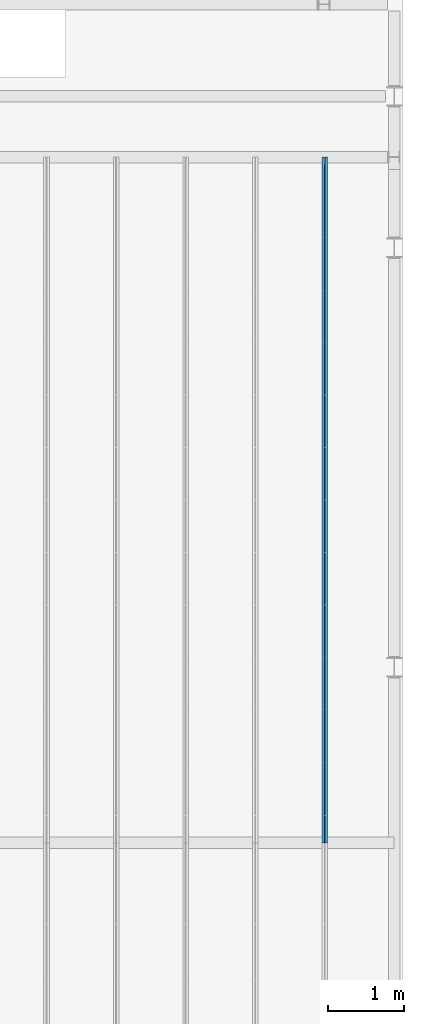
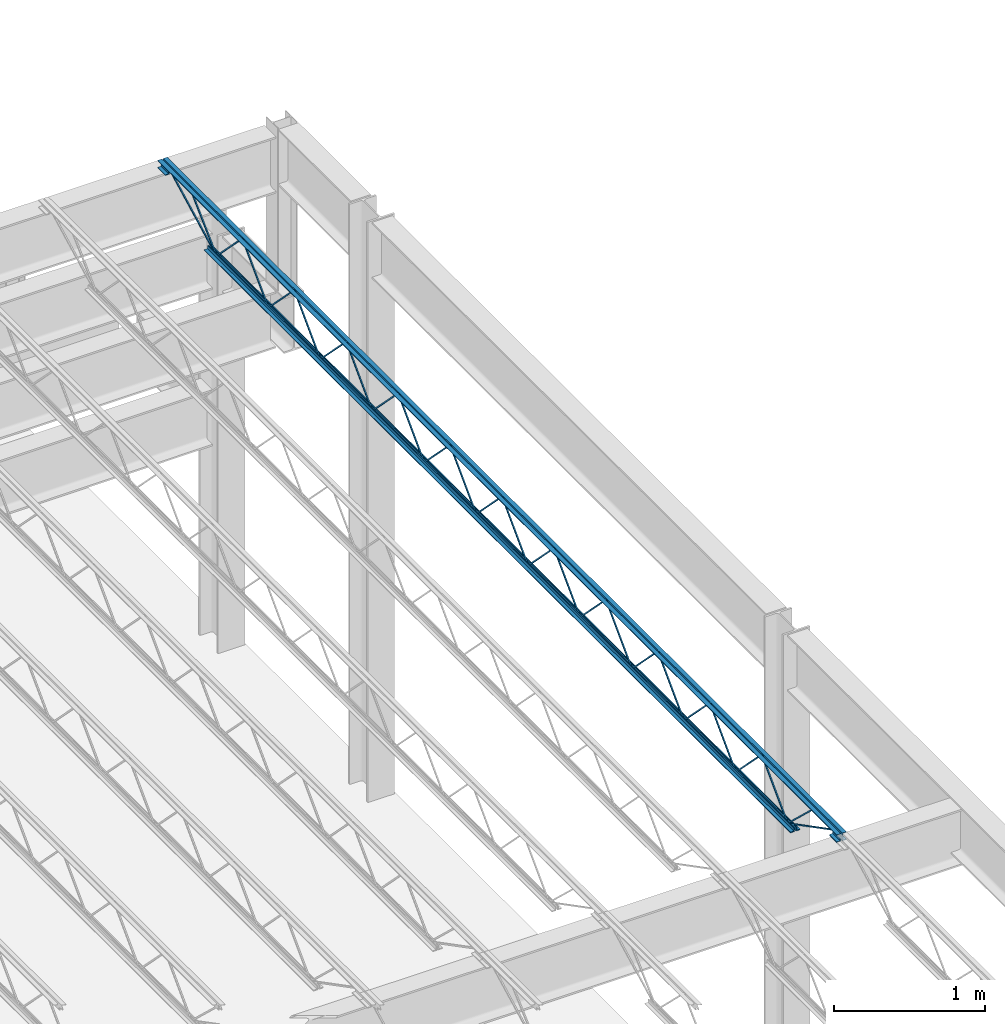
# One storey, part 72 of 119: 1 beam.
"""IFC2X3 building model written with IfcOpenShell, lengths in metres."""

from ifc_helpers import new_model, entity, si_unit, converted_unit, frame, origin, place, context, project, spatial, face_set, surface_model, element, save


model = new_model("IFC2X3")

# Units and contexts
model_context = context("Model", 3, precision=1e-09, world=origin())
plan_context = context("Plan", 3, precision=1e-09, world=origin())
ifc_project = project(units=[si_unit("LENGTHUNIT", "METRE"), si_unit("AREAUNIT", "SQUARE_METRE"), si_unit("VOLUMEUNIT", "CUBIC_METRE"), converted_unit("PLANEANGLEUNIT", "DEGREE", entity("IfcRatioMeasure", 0.01745329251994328), si_unit("PLANEANGLEUNIT", "RADIAN"), dimensions=[0, 0, 0, 0, 0, 0, 0]), si_unit("TIMEUNIT", "SECOND")], contexts=[model_context, plan_context])

# Site, building, storey
site_placement = place(None, origin())
site = spatial("IfcSite", under=ifc_project, at=site_placement, Name="Default", CompositionType="ELEMENT")
building_placement = place(site_placement, origin())
building = spatial("IfcBuilding", under=site, at=building_placement, CompositionType="ELEMENT")
storey_placement = place(building_placement, frame((0.0, 0.0, 4.570000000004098)))
storey = spatial("IfcBuildingStorey", under=building, at=storey_placement, Name="Second Floor", CompositionType="ELEMENT", Elevation=4.570000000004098)

# Beam
beam_placement = place(storey_placement, frame((-0.9467500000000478, 18.60999999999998, 4.323999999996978)))
element("IfcBeam", 1, at=beam_placement, inside=storey, Name="M_K-Series Bar Joist-Rod Web:14K1:14K1", ObjectType="M_K-Series Bar Joist-Rod Web:14K1", context=model_context, shape_type="SurfaceModel", body=[
    surface_model("IfcFaceBasedSurfaceModel", [(0.04150000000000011, 6.890090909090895, 0.01110000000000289), (0.03200000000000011, 6.890090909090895, 0.01110000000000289), (0.03200000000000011, 6.890090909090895, 0.001600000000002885), (0.04150000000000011, 6.890090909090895, 0.001600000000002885), (0.03200000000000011, 6.891272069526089, 0.01110000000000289), (0.04150000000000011, 6.891272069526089, 0.01110000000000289), (0.03200000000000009, 6.895259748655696, 0.001600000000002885), (0.03200000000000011, 7.232137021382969, 0.3449000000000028), (0.03200000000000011, 7.234499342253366, 0.3449000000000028), (0.03200000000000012, 7.571376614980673, 0.001600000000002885), (0.03200000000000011, 7.57654545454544, 0.001600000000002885), (0.03200000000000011, 7.57654545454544, 0.01110000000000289), (0.03200000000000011, 7.575364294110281, 0.01110000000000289), (0.0320000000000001, 7.238487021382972, 0.3544000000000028), (0.03200000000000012, 7.228149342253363, 0.3544000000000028), (0.0415000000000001, 6.895259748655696, 0.001600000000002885), (0.04149999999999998, 7.232137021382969, 0.3449000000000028), (0.04149999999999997, 7.234499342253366, 0.3449000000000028), (0.04149999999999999, 7.571376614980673, 0.001600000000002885), (0.04149999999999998, 7.57654545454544, 0.001600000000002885), (0.04150000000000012, 7.57654545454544, 0.01110000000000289), (0.04150000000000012, 7.575364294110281, 0.01110000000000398), (0.04150000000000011, 7.238487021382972, 0.3544000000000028), (0.04150000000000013, 7.228149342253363, 0.3544000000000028), (0.0415000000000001, 6.203636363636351, 0.01110000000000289), (0.0320000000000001, 6.203636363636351, 0.01110000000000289), (0.0320000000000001, 6.203636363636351, 0.001600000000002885), (0.0415000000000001, 6.203636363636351, 0.001600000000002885), (0.03200000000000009, 6.204817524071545, 0.01110000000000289), (0.0415000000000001, 6.204817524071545, 0.01110000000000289), (0.03200000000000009, 6.208805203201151, 0.001600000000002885), (0.03200000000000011, 6.545682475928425, 0.3449000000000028), (0.0320000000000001, 6.548044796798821, 0.3449000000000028), (0.03200000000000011, 6.884922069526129, 0.001600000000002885), (0.03200000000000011, 6.888909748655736, 0.01110000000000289), (0.03200000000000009, 6.552032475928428, 0.3544000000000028), (0.03200000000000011, 6.541694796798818, 0.3544000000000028), (0.04150000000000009, 6.208805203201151, 0.001600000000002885), (0.04149999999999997, 6.545682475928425, 0.3449000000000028), (0.04149999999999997, 6.548044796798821, 0.3449000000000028), (0.04149999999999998, 6.884922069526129, 0.001600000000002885), (0.04149999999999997, 6.890090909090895, 0.001600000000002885), (0.04150000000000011, 6.888909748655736, 0.01110000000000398), (0.0415000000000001, 6.552032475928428, 0.3544000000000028), (0.04150000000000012, 6.541694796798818, 0.3544000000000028), (0.0415000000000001, 5.517181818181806, 0.01110000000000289), (0.03200000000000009, 5.517181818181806, 0.01110000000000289), (0.03200000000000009, 5.517181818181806, 0.001600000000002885), (0.0415000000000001, 5.517181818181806, 0.001600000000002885), (0.03200000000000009, 5.518362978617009, 0.01110000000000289), (0.0415000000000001, 5.518362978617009, 0.01110000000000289), (0.03200000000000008, 5.522350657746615, 0.001600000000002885), (0.0320000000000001, 5.85922793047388, 0.3449000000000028), (0.03200000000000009, 5.861590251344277, 0.3449000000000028), (0.03200000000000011, 6.198467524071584, 0.001600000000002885), (0.0320000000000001, 6.202455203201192, 0.01110000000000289), (0.03200000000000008, 5.865577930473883, 0.3544000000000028), (0.03200000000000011, 5.855240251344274, 0.3544000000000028), (0.04150000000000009, 5.522350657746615, 0.001600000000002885), (0.04149999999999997, 5.859227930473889, 0.3449000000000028), (0.04149999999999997, 5.861590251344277, 0.3449000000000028), (0.04149999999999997, 6.198467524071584, 0.001600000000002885), (0.04149999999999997, 6.203636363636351, 0.001600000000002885), (0.04150000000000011, 6.202455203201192, 0.01110000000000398), (0.04150000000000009, 5.865577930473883, 0.3544000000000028), (0.04150000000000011, 5.855240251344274, 0.3544000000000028), (0.04150000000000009, 4.830727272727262, 0.01110000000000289), (0.03200000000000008, 4.830727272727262, 0.01110000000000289), (0.03200000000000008, 4.830727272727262, 0.001600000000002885), (0.04150000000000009, 4.830727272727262, 0.001600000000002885), (0.03200000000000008, 4.831908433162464, 0.01110000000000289), (0.04150000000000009, 4.831908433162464, 0.01110000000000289), (0.03200000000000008, 4.835896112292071, 0.001600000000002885), (0.03200000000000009, 5.172773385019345, 0.3449000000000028), (0.03200000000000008, 5.175135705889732, 0.3449000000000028), (0.0320000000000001, 5.51201297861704, 0.001600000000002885), (0.03200000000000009, 5.516000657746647, 0.01110000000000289), (0.03200000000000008, 5.179123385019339, 0.3544000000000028), (0.0320000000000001, 5.168785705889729, 0.3544000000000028), (0.04150000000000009, 4.835896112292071, 0.001600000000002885), (0.04149999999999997, 5.172773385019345, 0.3449000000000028), (0.04149999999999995, 5.175135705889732, 0.3449000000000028), (0.04149999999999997, 5.51201297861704, 0.001600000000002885), (0.04149999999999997, 5.517181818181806, 0.001600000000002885), (0.0415000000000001, 5.516000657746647, 0.01110000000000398), (0.04150000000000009, 5.179123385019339, 0.3544000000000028), (0.0415000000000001, 5.168785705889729, 0.3544000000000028), (0.04150000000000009, 4.144272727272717, 0.01110000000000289), (0.03200000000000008, 4.144272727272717, 0.01110000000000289), (0.03200000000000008, 4.144272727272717, 0.001600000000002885), (0.04150000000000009, 4.144272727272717, 0.001600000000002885), (0.03200000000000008, 4.145453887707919, 0.01110000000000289), (0.04150000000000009, 4.145453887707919, 0.01110000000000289), (0.03200000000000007, 4.149441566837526, 0.001600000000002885), (0.03200000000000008, 4.4863188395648, 0.3449000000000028), (0.03200000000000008, 4.488681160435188, 0.3449000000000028), (0.03200000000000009, 4.825558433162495, 0.001600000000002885), (0.03200000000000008, 4.83072727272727, 0.001600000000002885), (0.03200000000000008, 4.829546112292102, 0.01110000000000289), (0.03200000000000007, 4.492668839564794, 0.3544000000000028), (0.03200000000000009, 4.482331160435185, 0.3544000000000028), (0.04150000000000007, 4.149441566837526, 0.001600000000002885), (0.04149999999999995, 4.4863188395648, 0.3449000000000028), (0.04149999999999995, 4.488681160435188, 0.3449000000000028), (0.04149999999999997, 4.825558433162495, 0.001600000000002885), (0.04149999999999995, 4.830727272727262, 0.001600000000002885), (0.04150000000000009, 4.83072727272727, 0.01110000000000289), (0.04150000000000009, 4.829546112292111, 0.01110000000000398), (0.04150000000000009, 4.492668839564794, 0.3544000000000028), (0.0415000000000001, 4.482331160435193, 0.3544000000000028), (0.04150000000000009, 3.457818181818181, 0.01110000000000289), (0.03200000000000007, 3.457818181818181, 0.01110000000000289), (0.03200000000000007, 3.457818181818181, 0.001600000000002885), (0.04150000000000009, 3.457818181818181, 0.001600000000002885), (0.03200000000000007, 3.458999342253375, 0.01110000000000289), (0.04150000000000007, 3.458999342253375, 0.01110000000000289), (0.03200000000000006, 3.462987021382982, 0.001600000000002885), (0.03200000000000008, 3.799864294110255, 0.3449000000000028), (0.03200000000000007, 3.802226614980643, 0.3449000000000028), (0.03200000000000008, 4.13910388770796, 0.001600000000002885), (0.03200000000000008, 4.144272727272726, 0.001600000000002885), (0.03200000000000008, 4.144272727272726, 0.01110000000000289), (0.03200000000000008, 4.143091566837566, 0.01110000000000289), (0.03200000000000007, 3.806214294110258, 0.3544000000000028), (0.03200000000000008, 3.795876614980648, 0.3544000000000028), (0.04150000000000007, 3.462987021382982, 0.001600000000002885), (0.04149999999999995, 3.799864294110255, 0.3449000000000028), (0.04149999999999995, 3.802226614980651, 0.3449000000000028), (0.04149999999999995, 4.13910388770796, 0.001600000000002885), (0.04149999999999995, 4.144272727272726, 0.001600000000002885), (0.04150000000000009, 4.144272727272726, 0.01110000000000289), (0.04150000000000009, 4.143091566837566, 0.01110000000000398), (0.04150000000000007, 3.806214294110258, 0.3544000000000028), (0.04150000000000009, 3.795876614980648, 0.3544000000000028), (0.04150000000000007, 2.771363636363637, 0.01110000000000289), (0.03200000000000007, 2.771363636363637, 0.01110000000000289), (0.03200000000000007, 2.771363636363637, 0.001600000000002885), (0.04150000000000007, 2.771363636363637, 0.001600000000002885), (0.03200000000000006, 2.77254479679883, 0.01110000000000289), (0.04150000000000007, 2.77254479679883, 0.01110000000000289), (0.03200000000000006, 2.776532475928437, 0.001600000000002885), (0.03200000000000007, 3.113409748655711, 0.3449000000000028), (0.03200000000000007, 3.115772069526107, 0.3449000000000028), (0.03200000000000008, 3.452649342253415, 0.001600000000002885), (0.03200000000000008, 3.456637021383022, 0.01110000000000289), (0.03200000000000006, 3.119759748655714, 0.3544000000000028), (0.03200000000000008, 3.109422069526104, 0.3544000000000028), (0.04150000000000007, 2.776532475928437, 0.001600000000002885), (0.04149999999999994, 3.113409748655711, 0.3449000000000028), (0.04149999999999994, 3.115772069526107, 0.3449000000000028), (0.04149999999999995, 3.452649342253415, 0.001600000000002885), (0.04149999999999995, 3.457818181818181, 0.001600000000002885), (0.04150000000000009, 3.456637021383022, 0.01110000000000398), (0.04150000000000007, 3.119759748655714, 0.3544000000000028), (0.04150000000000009, 3.109422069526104, 0.3544000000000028), (0.04150000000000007, 2.084909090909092, 0.01110000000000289), (0.03200000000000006, 2.084909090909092, 0.01110000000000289), (0.03200000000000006, 2.084909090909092, 0.001600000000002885), (0.04150000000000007, 2.084909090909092, 0.001600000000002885), (0.03200000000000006, 2.086090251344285, 0.01110000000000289), (0.04150000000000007, 2.086090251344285, 0.01110000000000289), (0.03200000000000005, 2.090077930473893, 0.001600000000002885), (0.03200000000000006, 2.426955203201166, 0.3449000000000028), (0.03200000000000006, 2.429317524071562, 0.3449000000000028), (0.03200000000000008, 2.766194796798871, 0.001600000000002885), (0.03200000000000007, 2.770182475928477, 0.01110000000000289), (0.03200000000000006, 2.433305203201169, 0.3544000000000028), (0.03200000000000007, 2.422967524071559, 0.3544000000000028), (0.04150000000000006, 2.090077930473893, 0.001600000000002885), (0.04149999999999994, 2.426955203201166, 0.3449000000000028), (0.04149999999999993, 2.429317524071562, 0.3449000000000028), (0.04149999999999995, 2.766194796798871, 0.001600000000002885), (0.04149999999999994, 2.771363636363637, 0.001600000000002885), (0.04150000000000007, 2.770182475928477, 0.01110000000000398), (0.04150000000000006, 2.433305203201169, 0.3544000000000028), (0.04150000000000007, 2.422967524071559, 0.3544000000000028), (0.04150000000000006, 1.398454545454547, 0.01110000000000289), (0.03200000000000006, 1.398454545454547, 0.01110000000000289), (0.03200000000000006, 1.398454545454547, 0.001600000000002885), (0.04150000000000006, 1.398454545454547, 0.001600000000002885), (0.03200000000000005, 1.39963570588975, 0.01110000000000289), (0.04150000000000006, 1.39963570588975, 0.01110000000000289), (0.03200000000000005, 1.403623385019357, 0.001600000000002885), (0.03200000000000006, 1.740500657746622, 0.3449000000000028), (0.03200000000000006, 1.742862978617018, 0.3449000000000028), (0.03200000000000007, 2.079740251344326, 0.001600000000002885), (0.03200000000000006, 2.083727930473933, 0.01110000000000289), (0.03200000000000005, 1.746850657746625, 0.3544000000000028), (0.03200000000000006, 1.736512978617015, 0.3544000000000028), (0.04150000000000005, 1.403623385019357, 0.001600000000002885), (0.04149999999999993, 1.74050065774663, 0.3449000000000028), (0.04149999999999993, 1.742862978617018, 0.3449000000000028), (0.04149999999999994, 2.079740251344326, 0.001600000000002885), (0.04149999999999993, 2.084909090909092, 0.001600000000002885), (0.04150000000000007, 2.083727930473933, 0.01110000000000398), (0.04150000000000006, 1.746850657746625, 0.3544000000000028), (0.04150000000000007, 1.736512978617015, 0.3544000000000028), (0.04150000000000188, 7.57654545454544, 0.01109999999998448), (0.03200000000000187, 7.57654545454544, 0.01109999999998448), (0.03200000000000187, 7.57654545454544, 0.001599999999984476), (0.04150000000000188, 7.57654545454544, 0.001599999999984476), (0.03200000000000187, 7.577726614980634, 0.01109999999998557), (0.04150000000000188, 7.577726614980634, 0.01109999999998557), (0.03200000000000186, 7.58171429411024, 0.001599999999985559), (0.03200000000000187, 7.918591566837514, 0.3448999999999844), (0.03200000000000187, 7.92095388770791, 0.3448999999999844), (0.03200000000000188, 8.257831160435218, 0.001599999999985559), (0.03200000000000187, 8.262999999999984, 0.001599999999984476), (0.03200000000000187, 8.262999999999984, 0.01109999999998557), (0.03200000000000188, 8.261818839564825, 0.01109999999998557), (0.03200000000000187, 7.924941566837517, 0.3543999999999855), (0.03200000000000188, 7.914603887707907, 0.3543999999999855), (0.04150000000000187, 7.58171429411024, 0.001599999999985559), (0.04150000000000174, 7.918591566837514, 0.3448999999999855), (0.04150000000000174, 7.92095388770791, 0.3448999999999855), (0.04150000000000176, 8.257831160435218, 0.001599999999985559), (0.04150000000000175, 8.262999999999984, 0.001599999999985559), (0.04150000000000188, 8.262999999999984, 0.01109999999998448), (0.04150000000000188, 8.261818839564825, 0.01109999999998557), (0.04150000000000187, 7.924941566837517, 0.3543999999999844), (0.04150000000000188, 7.914603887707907, 0.3543999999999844), (0.04150000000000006, 0.712000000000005, 0.01110000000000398), (0.03200000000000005, 0.712000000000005, 0.01110000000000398), (0.03200000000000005, 0.712000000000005, 0.001600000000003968), (0.04150000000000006, 0.712000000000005, 0.001600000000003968), (0.03200000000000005, 0.7131811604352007, 0.01110000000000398), (0.04150000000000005, 0.7131811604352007, 0.01110000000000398), (0.03200000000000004, 0.7171688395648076, 0.001600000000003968), (0.03200000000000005, 1.054046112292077, 0.3449000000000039), (0.03200000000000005, 1.056408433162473, 0.3449000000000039), (0.03200000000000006, 1.393285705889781, 0.001600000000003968), (0.03200000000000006, 1.398454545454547, 0.001600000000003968), (0.03200000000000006, 1.398454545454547, 0.01110000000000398), (0.03200000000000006, 1.397273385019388, 0.01110000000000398), (0.03200000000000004, 1.06039611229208, 0.3544000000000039), (0.03200000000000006, 1.05005843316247, 0.3544000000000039), (0.04150000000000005, 0.7171688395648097, 0.001600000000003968), (0.04149999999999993, 1.054046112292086, 0.3449000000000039), (0.04149999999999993, 1.056408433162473, 0.3449000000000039), (0.04149999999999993, 1.393285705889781, 0.001600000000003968), (0.04149999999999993, 1.398454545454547, 0.001600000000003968), (0.04150000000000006, 1.398454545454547, 0.01110000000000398), (0.04150000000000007, 1.397273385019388, 0.01110000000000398), (0.04150000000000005, 1.06039611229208, 0.3544000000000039), (0.04150000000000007, 1.05005843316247, 0.3544000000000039), (0.03200000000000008, 8.974999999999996, 0.3559999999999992), (0.0, 8.974999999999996, 0.3559999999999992), (0.0, 8.974999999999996, 0.3494999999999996), (0.0254999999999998, 8.974999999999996, 0.3494999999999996), (0.0254999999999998, 8.974999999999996, 0.3239999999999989), (0.03200000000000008, 8.974999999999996, 0.3239999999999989), (0.04149999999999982, 8.974999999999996, 0.3559999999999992), (0.04149999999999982, 8.974999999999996, 0.3239999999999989), (0.04799999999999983, 8.974999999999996, 0.3239999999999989), (0.04799999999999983, 8.974999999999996, 0.3494999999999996), (0.07350000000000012, 8.974999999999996, 0.3494999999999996), (0.07350000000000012, 8.974999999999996, 0.3559999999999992), (0.03200000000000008, 0.0, 0.3559999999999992), (0.0, 0.0, 0.3559999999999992), (0.0, 0.0, 0.3494999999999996), (0.0254999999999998, 0.0, 0.3494999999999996), (0.0254999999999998, 0.0, 0.3239999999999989), (0.03200000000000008, 0.0, 0.3239999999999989), (0.04149999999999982, 0.0, 0.3559999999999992), (0.04149999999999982, 0.0, 0.3239999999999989), (0.04799999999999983, 0.0, 0.3239999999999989), (0.04799999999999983, 0.0, 0.3494999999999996), (0.07350000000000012, 0.0, 0.3494999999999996), (0.07350000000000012, 0.0, 0.3559999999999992), (0.04149999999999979, 0.09999999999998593, 0.2924999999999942), (0.0735000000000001, 0.09999999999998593, 0.2924999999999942), (0.0735000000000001, 0.09999999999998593, 0.2989999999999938), (0.04799999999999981, 0.09999999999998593, 0.2989999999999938), (0.04799999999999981, 0.09999999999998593, 0.3239999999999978), (0.04149999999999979, 0.09999999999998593, 0.3239999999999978), (0.0, 0.09999999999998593, 0.2924999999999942), (0.03199999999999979, 0.09999999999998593, 0.2924999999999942), (0.03199999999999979, 0.09999999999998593, 0.3239999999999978), (0.02549999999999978, 0.09999999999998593, 0.3239999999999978), (0.02549999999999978, 0.09999999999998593, 0.2989999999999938), (0.0, 0.09999999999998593, 0.2989999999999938), (0.04149999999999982, 0.0, 0.2924999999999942), (0.07350000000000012, 0.0, 0.2924999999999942), (0.07350000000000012, 0.0, 0.2989999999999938), (0.04799999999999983, 0.0, 0.2989999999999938), (0.04799999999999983, 0.0, 0.3239999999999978), (0.04149999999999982, 0.0, 0.3239999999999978), (0.0, 0.0, 0.2924999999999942), (0.03199999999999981, 0.0, 0.2924999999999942), (0.03199999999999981, 0.0, 0.3239999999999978), (0.0254999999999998, 0.0, 0.3239999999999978), (0.0254999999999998, 0.0, 0.2989999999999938), (0.0, 0.0, 0.2989999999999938), (0.03199999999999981, 8.974999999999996, 0.2924999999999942), (0.03199999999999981, 8.974999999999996, 0.3239999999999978), (0.0254999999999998, 8.974999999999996, 0.3239999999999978), (0.0254999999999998, 8.974999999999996, 0.2989999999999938), (0.0, 8.974999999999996, 0.2989999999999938), (0.0, 8.974999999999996, 0.2924999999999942), (0.04149999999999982, 8.974999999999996, 0.2924999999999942), (0.0735, 8.974999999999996, 0.2924999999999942), (0.0735, 8.974999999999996, 0.2989999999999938), (0.04799999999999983, 8.974999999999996, 0.2989999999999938), (0.04799999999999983, 8.974999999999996, 0.3239999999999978), (0.04149999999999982, 8.974999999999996, 0.3239999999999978), (0.03199999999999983, 8.875000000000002, 0.2924999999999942), (0.03199999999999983, 8.875000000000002, 0.3239999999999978), (0.02549999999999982, 8.875000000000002, 0.3239999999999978), (0.02549999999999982, 8.875000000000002, 0.2989999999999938), (0.0, 8.875000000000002, 0.2989999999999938), (0.0, 8.875000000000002, 0.2924999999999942), (0.04149999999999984, 8.875000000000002, 0.2924999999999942), (0.07350000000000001, 8.875000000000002, 0.2924999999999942), (0.07350000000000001, 8.875000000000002, 0.2989999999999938), (0.04799999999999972, 8.875000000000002, 0.2989999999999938), (0.04799999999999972, 8.875000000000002, 0.3239999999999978), (0.04149999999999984, 8.875000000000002, 0.3239999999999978), (0.03199999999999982, 8.363000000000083, 0.0), (0.03199999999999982, 8.363000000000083, 0.03199999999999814), (0.02549999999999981, 8.363000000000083, 0.03199999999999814), (0.02549999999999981, 8.363000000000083, 0.006499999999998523), (0.0, 8.363000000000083, 0.006499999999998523), (0.0, 8.363000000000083, 0.0), (0.04149999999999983, 8.363000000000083, 0.0), (0.0735, 8.363000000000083, 0.0), (0.0735, 8.363000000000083, 0.006499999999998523), (0.04799999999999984, 8.363000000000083, 0.006499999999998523), (0.04799999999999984, 8.363000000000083, 0.03199999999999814), (0.04149999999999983, 8.363000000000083, 0.03199999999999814), (0.0319999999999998, 0.6120000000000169, 0.0), (0.0319999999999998, 0.6120000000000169, 0.03199999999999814), (0.02549999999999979, 0.6120000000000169, 0.03199999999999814), (0.02549999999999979, 0.6120000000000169, 0.006499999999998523), (0.0, 0.6120000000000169, 0.006499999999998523), (0.0, 0.6120000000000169, 0.0), (0.0414999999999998, 0.6120000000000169, 0.0), (0.07349999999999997, 0.6120000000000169, 0.0), (0.07349999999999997, 0.6120000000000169, 0.006499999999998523), (0.04799999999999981, 0.6120000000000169, 0.006499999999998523), (0.04799999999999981, 0.6120000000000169, 0.03199999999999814), (0.0414999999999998, 0.6120000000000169, 0.03199999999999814), (0.04150000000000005, 0.7141882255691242, 0.01056594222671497), (0.03200000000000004, 0.7141882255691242, 0.01056594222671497), (0.03200000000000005, 0.7098117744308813, 0.002134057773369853), (0.04150000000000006, 0.7098117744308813, 0.002134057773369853), (0.04150000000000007, 0.1011592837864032, 0.3287499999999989), (0.04150000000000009, 0.0, 0.3287499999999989), (0.04150000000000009, 0.0, 0.3192499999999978), (0.04150000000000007, 0.09884071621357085, 0.3192499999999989), (0.03200000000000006, 0.09884071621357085, 0.3192499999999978), (0.03200000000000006, 0.1011592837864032, 0.3287499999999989), (0.03200000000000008, 0.0, 0.3287499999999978), (0.03200000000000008, 0.0, 0.3192499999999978), (0.04150000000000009, 0.3488155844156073, 0.3417000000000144), (0.03200000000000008, 0.3488155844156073, 0.3417000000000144), (0.03200000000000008, 0.3488155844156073, 0.3322000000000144), (0.04150000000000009, 0.3488155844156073, 0.3322000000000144), (0.03200000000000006, 0.3634023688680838, 0.3417000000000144), (0.04150000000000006, 0.3634023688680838, 0.3417000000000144), (0.03200000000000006, 0.3596287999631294, 0.3322000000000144), (0.03200000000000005, 0.7087406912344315, 0.002894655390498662), (0.03200000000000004, 0.7152593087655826, 0.009805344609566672), (0.04150000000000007, 0.3596287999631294, 0.3322000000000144), (0.04150000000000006, 0.7087406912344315, 0.002894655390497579), (0.04150000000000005, 0.7152593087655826, 0.009805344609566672), (0.04150000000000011, 8.877188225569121, 0.3197840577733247), (0.04150000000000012, 8.87281177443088, 0.3282159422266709), (0.03200000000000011, 8.87281177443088, 0.3282159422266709), (0.03200000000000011, 8.877188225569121, 0.3197840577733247), (0.04150000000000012, 8.265188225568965, 0.002134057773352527), (0.04150000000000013, 8.260811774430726, 0.01056594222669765), (0.03200000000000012, 8.260811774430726, 0.01056594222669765), (0.03200000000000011, 8.265188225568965, 0.002134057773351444), (0.0415000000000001, 8.624030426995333, 0.346222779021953), (0.04150000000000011, 8.617452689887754, 0.3530772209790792), (0.03200000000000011, 8.617452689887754, 0.3530772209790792), (0.03200000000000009, 8.624030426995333, 0.346222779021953), (0.04150000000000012, 8.266288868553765, 0.002922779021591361), (0.04150000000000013, 8.259711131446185, 0.009777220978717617), (0.03200000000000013, 8.259711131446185, 0.009777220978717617), (0.03200000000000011, 8.266288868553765, 0.002922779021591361)], [face_set([[[0, 1, 2, 3]], [[1, 4, 5, 0]], [[2, 6, 7, 8, 9, 10, 11, 12, 13, 14, 4, 1]], [[3, 2, 6, 15]], [[0, 3, 15, 16, 17, 18, 19, 20, 21, 22, 23, 5]], [[4, 5, 23, 14]], [[15, 16, 7, 6]], [[14, 13, 22, 23]], [[16, 7, 8, 17]], [[13, 12, 21, 22]], [[17, 8, 9, 18]], [[20, 11, 10, 19]], [[12, 11, 20, 21]], [[18, 9, 10, 19]]]), face_set([[[24, 25, 26, 27]], [[25, 28, 29, 24]], [[26, 30, 31, 32, 33, 2, 1, 34, 35, 36, 28, 25]], [[27, 26, 30, 37]], [[24, 27, 37, 38, 39, 40, 41, 0, 42, 43, 44, 29]], [[28, 29, 44, 36]], [[37, 38, 31, 30]], [[36, 35, 43, 44]], [[38, 31, 32, 39]], [[35, 34, 42, 43]], [[39, 32, 33, 40]], [[0, 1, 2, 41]], [[34, 1, 0, 42]], [[40, 33, 2, 41]]]), face_set([[[45, 46, 47, 48]], [[46, 49, 50, 45]], [[47, 51, 52, 53, 54, 26, 25, 55, 56, 57, 49, 46]], [[48, 47, 51, 58]], [[45, 48, 58, 59, 60, 61, 62, 24, 63, 64, 65, 50]], [[49, 50, 65, 57]], [[58, 59, 52, 51]], [[57, 56, 64, 65]], [[59, 52, 53, 60]], [[56, 55, 63, 64]], [[60, 53, 54, 61]], [[24, 25, 26, 62]], [[55, 25, 24, 63]], [[61, 54, 26, 62]]]), face_set([[[66, 67, 68, 69]], [[67, 70, 71, 66]], [[68, 72, 73, 74, 75, 47, 46, 76, 77, 78, 70, 67]], [[69, 68, 72, 79]], [[66, 69, 79, 80, 81, 82, 83, 45, 84, 85, 86, 71]], [[70, 71, 86, 78]], [[79, 80, 73, 72]], [[78, 77, 85, 86]], [[80, 73, 74, 81]], [[77, 76, 84, 85]], [[81, 74, 75, 82]], [[45, 46, 47, 83]], [[76, 46, 45, 84]], [[82, 75, 47, 83]]]), face_set([[[87, 88, 89, 90]], [[88, 91, 92, 87]], [[89, 93, 94, 95, 96, 97, 67, 98, 99, 100, 91, 88]], [[90, 89, 93, 101]], [[87, 90, 101, 102, 103, 104, 105, 106, 107, 108, 109, 92]], [[91, 92, 109, 100]], [[101, 102, 94, 93]], [[100, 99, 108, 109]], [[102, 94, 95, 103]], [[99, 98, 107, 108]], [[103, 95, 96, 104]], [[106, 67, 97, 105]], [[98, 67, 106, 107]], [[104, 96, 97, 105]]]), face_set([[[110, 111, 112, 113]], [[111, 114, 115, 110]], [[112, 116, 117, 118, 119, 120, 121, 122, 123, 124, 114, 111]], [[113, 112, 116, 125]], [[110, 113, 125, 126, 127, 128, 129, 130, 131, 132, 133, 115]], [[114, 115, 133, 124]], [[125, 126, 117, 116]], [[124, 123, 132, 133]], [[126, 117, 118, 127]], [[123, 122, 131, 132]], [[127, 118, 119, 128]], [[130, 121, 120, 129]], [[122, 121, 130, 131]], [[128, 119, 120, 129]]]), face_set([[[134, 135, 136, 137]], [[135, 138, 139, 134]], [[136, 140, 141, 142, 143, 112, 111, 144, 145, 146, 138, 135]], [[137, 136, 140, 147]], [[134, 137, 147, 148, 149, 150, 151, 110, 152, 153, 154, 139]], [[138, 139, 154, 146]], [[147, 148, 141, 140]], [[146, 145, 153, 154]], [[148, 141, 142, 149]], [[145, 144, 152, 153]], [[149, 142, 143, 150]], [[110, 111, 112, 151]], [[144, 111, 110, 152]], [[150, 143, 112, 151]]]), face_set([[[155, 156, 157, 158]], [[156, 159, 160, 155]], [[157, 161, 162, 163, 164, 136, 135, 165, 166, 167, 159, 156]], [[158, 157, 161, 168]], [[155, 158, 168, 169, 170, 171, 172, 134, 173, 174, 175, 160]], [[159, 160, 175, 167]], [[168, 169, 162, 161]], [[167, 166, 174, 175]], [[169, 162, 163, 170]], [[166, 165, 173, 174]], [[170, 163, 164, 171]], [[134, 135, 136, 172]], [[165, 135, 134, 173]], [[171, 164, 136, 172]]]), face_set([[[176, 177, 178, 179]], [[177, 180, 181, 176]], [[178, 182, 183, 184, 185, 157, 156, 186, 187, 188, 180, 177]], [[179, 178, 182, 189]], [[176, 179, 189, 190, 191, 192, 193, 155, 194, 195, 196, 181]], [[180, 181, 196, 188]], [[189, 190, 183, 182]], [[188, 187, 195, 196]], [[190, 183, 184, 191]], [[187, 186, 194, 195]], [[191, 184, 185, 192]], [[155, 156, 157, 193]], [[186, 156, 155, 194]], [[192, 185, 157, 193]]]), face_set([[[197, 198, 199, 200]], [[198, 201, 202, 197]], [[199, 203, 204, 205, 206, 207, 208, 209, 210, 211, 201, 198]], [[200, 199, 203, 212]], [[197, 200, 212, 213, 214, 215, 216, 217, 218, 219, 220, 202]], [[201, 202, 220, 211]], [[212, 213, 204, 203]], [[211, 210, 219, 220]], [[213, 204, 205, 214]], [[210, 209, 218, 219]], [[214, 205, 206, 215]], [[217, 208, 207, 216]], [[209, 208, 217, 218]], [[215, 206, 207, 216]]]), face_set([[[221, 222, 223, 224]], [[222, 225, 226, 221]], [[223, 227, 228, 229, 230, 231, 232, 233, 234, 235, 225, 222]], [[224, 223, 227, 236]], [[221, 224, 236, 237, 238, 239, 240, 241, 242, 243, 244, 226]], [[225, 226, 244, 235]], [[236, 237, 228, 227]], [[235, 234, 243, 244]], [[237, 228, 229, 238]], [[234, 233, 242, 243]], [[238, 229, 230, 239]], [[241, 232, 231, 240]], [[233, 232, 241, 242]], [[239, 230, 231, 240]]]), face_set([[[245, 246, 247, 248, 249, 250]], [[251, 252, 253, 254, 255, 256]], [[257, 258, 259, 260, 261, 262]], [[263, 264, 265, 266, 267, 268]], [[250, 245, 257, 262]], [[249, 250, 262, 261]], [[248, 260, 261, 249]], [[247, 248, 260, 259]], [[246, 258, 259, 247]], [[245, 257, 258, 246]], [[256, 268, 263, 251]], [[255, 256, 268, 267]], [[254, 255, 267, 266]], [[253, 254, 266, 265]], [[252, 253, 265, 264]], [[251, 263, 264, 252]]]), face_set([[[269, 270, 271, 272, 273, 274]], [[275, 276, 277, 278, 279, 280]], [[281, 282, 283, 284, 285, 286]], [[287, 288, 289, 290, 291, 292]], [[274, 286, 281, 269]], [[273, 285, 286, 274]], [[272, 273, 285, 284]], [[271, 283, 284, 272]], [[270, 271, 283, 282]], [[269, 270, 282, 281]], [[280, 292, 287, 275]], [[279, 291, 292, 280]], [[278, 290, 291, 279]], [[277, 289, 290, 278]], [[276, 277, 289, 288]], [[275, 276, 288, 287]]]), face_set([[[293, 294, 295, 296, 297, 298]], [[299, 300, 301, 302, 303, 304]], [[305, 306, 307, 308, 309, 310]], [[311, 312, 313, 314, 315, 316]], [[298, 293, 305, 310]], [[297, 309, 310, 298]], [[296, 308, 309, 297]], [[295, 307, 308, 296]], [[294, 306, 307, 295]], [[293, 294, 306, 305]], [[304, 316, 311, 299]], [[303, 315, 316, 304]], [[302, 303, 315, 314]], [[301, 313, 314, 302]], [[300, 301, 313, 312]], [[299, 300, 312, 311]]]), face_set([[[317, 318, 319, 320, 321, 322]], [[323, 324, 325, 326, 327, 328]], [[329, 330, 331, 332, 333, 334]], [[335, 336, 337, 338, 339, 340]], [[322, 317, 329, 334]], [[321, 333, 334, 322]], [[320, 332, 333, 321]], [[319, 331, 332, 320]], [[318, 330, 331, 319]], [[317, 318, 330, 329]], [[328, 340, 335, 323]], [[327, 339, 340, 328]], [[326, 327, 339, 338]], [[325, 337, 338, 326]], [[324, 325, 337, 336]], [[323, 324, 336, 335]]]), face_set([[[341, 342, 343, 344]], [[344, 341, 345, 346, 347, 348]], [[343, 344, 348, 349]], [[342, 350, 351, 352, 349, 343]], [[341, 345, 350, 342]], [[346, 351, 352, 347]], [[349, 348, 347, 352]], [[345, 346, 351, 350]]]), face_set([[[353, 354, 355, 356]], [[354, 357, 358, 353]], [[355, 359, 360, 361, 357, 354]], [[356, 355, 359, 362]], [[353, 356, 362, 363, 364, 358]], [[364, 361, 360, 363]], [[357, 361, 364, 358]], [[362, 359, 360, 363]]]), face_set([[[365, 366, 367, 368]], [[369, 370, 371, 372]], [[368, 372, 369, 365]], [[367, 371, 372, 368]], [[366, 367, 371, 370]], [[365, 366, 370, 369]]]), face_set([[[373, 374, 375, 376]], [[377, 378, 379, 380]], [[376, 380, 377, 373]], [[375, 379, 380, 376]], [[374, 375, 379, 378]], [[373, 374, 378, 377]]])]),
])

save(model, "model.ifc")
